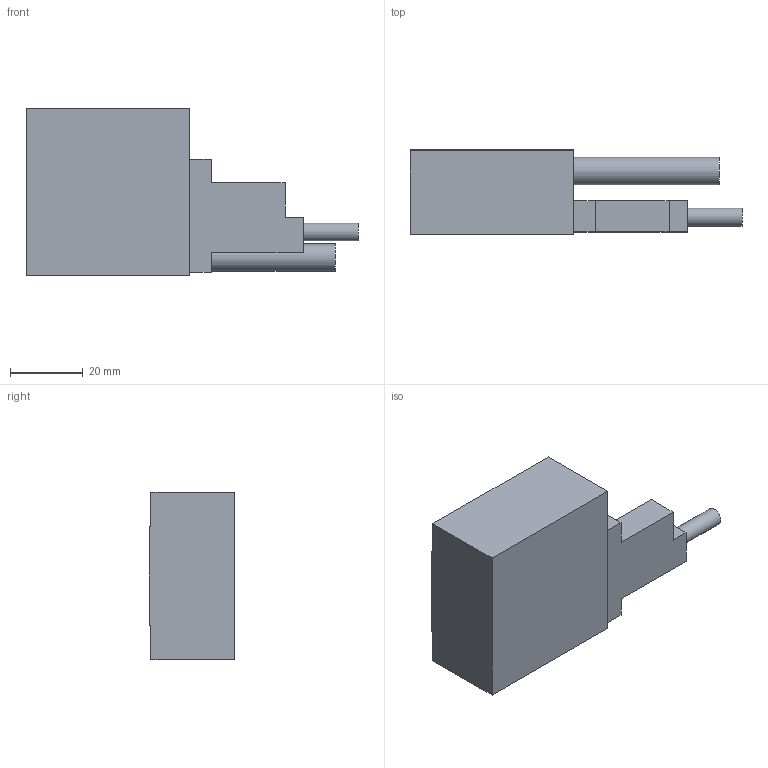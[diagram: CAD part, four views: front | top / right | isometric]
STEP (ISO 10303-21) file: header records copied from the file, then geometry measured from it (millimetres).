
FILE_DESCRIPTION(/* description */ ('STEP AP242 Edition 2','CAx-IF Rec.Pracs.---Representation and Presentation of Product Manufacturing Information (PMI)---4.0---2014-10-13','CAx-IF Rec.Pracs.---3D Tessellated Geometry---0.4---2014-09-14','2;1','CAx-IF Rec.Pracs.---User Defined Attributes---1.5---2016-08-15'),/* implementation_level */ '2;1');
FILE_NAME(/* name */ 'CMI10S',/* time_stamp */ '2026-04-13T00:54:07Z',/* author */ (''),/* organization */ (''),/* preprocessor_version */ 'ST-DEVELOPER v20',/* originating_system */ 'ONSHAPE BY PTC INC, 1.213',/* authorisation */ ' ');
FILE_SCHEMA (('AP242_MANAGED_MODEL_BASED_3D_ENGINEERING_MIM_LF { 1 0 10303 442 3 1 4 }'));
Length unit declared in the file: metre
Products named in the file (1): CMI10S
Bounding box: 91 x 23.5 x 46 mm (x, y, z)
Volume: 53999.8 mm3; surface area: 12574.6 mm2
Topology: 1 solids, 2 shells, 54 faces, 130 edges, 85 vertices
Faces by surface type: plane 33, cylinder 15, cone 6
Full cylindrical faces by diameter (mm): 2.5 x2, 3.3 x4, 3.4 x2, 4.9 x2, 7.5 x1
Entity records: 1452 total; most frequent: DIRECTION 246, CARTESIAN_POINT 243, ORIENTED_EDGE 210, EDGE_CURVE 105, AXIS2_PLACEMENT_3D 86, VERTEX_POINT 83, FACE_BOUND 82, EDGE_LOOP 76
